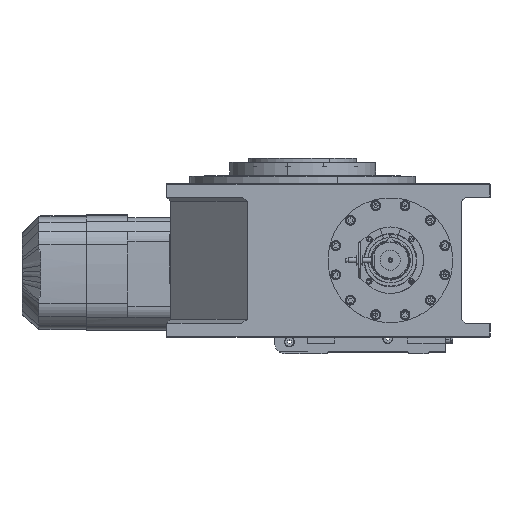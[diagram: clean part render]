
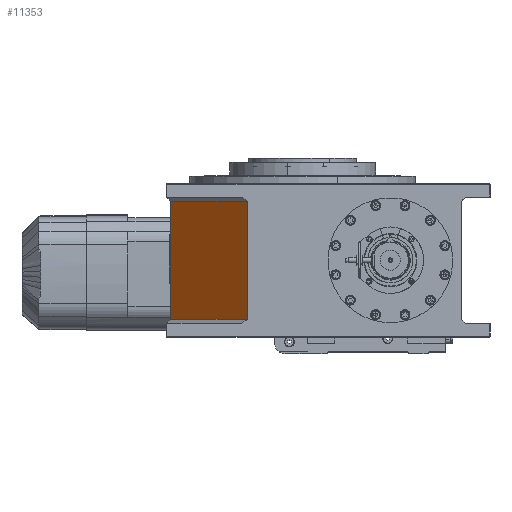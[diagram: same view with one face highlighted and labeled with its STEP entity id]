
A CAD part, top view. The second image highlights one B-rep face of the part: STEP entity #11353.
In plain terms, the highlighted planar face has unit normal (-0.707, 0, 0.707).
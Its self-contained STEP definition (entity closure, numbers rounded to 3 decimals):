
#668 = EDGE_LOOP ( 'NONE', ( #76084, #14489, #61725, #41311 ) ) ;
#1149 = LINE ( 'NONE', #9720, #94469 ) ;
#7023 = VECTOR ( 'NONE', #64247, 1000. ) ;
#9157 = LINE ( 'NONE', #38247, #7023 ) ;
#9308 = VERTEX_POINT ( 'NONE', #89737 ) ;
#9720 = CARTESIAN_POINT ( 'NONE',  ( -199., 204., 83.259 ) ) ;
#10438 = LINE ( 'NONE', #25717, #73463 ) ;
#10772 = VECTOR ( 'NONE', #27978, 1000. ) ;
#11353 = ADVANCED_FACE ( 'NONE', ( #41553 ), #71653, .F. ) ;
#14489 = ORIENTED_EDGE ( 'NONE', *, *, #32992, .T. ) ;
#14540 = LINE ( 'NONE', #94373, #10772 ) ;
#18717 = AXIS2_PLACEMENT_3D ( 'NONE', #86438, #94100, #28168 ) ;
#22784 = VERTEX_POINT ( 'NONE', #66321 ) ;
#25717 = CARTESIAN_POINT ( 'NONE',  ( -83.259, 26., 199. ) ) ;
#27978 = DIRECTION ( 'NONE',  ( 0., -1., 0. ) ) ;
#28168 = DIRECTION ( 'NONE',  ( -0.707, 0., -0.707 ) ) ;
#30622 = CARTESIAN_POINT ( 'NONE',  ( -199., 204., 83.259 ) ) ;
#32992 = EDGE_CURVE ( 'NONE', #9308, #42484, #1149, .T. ) ;
#38247 = CARTESIAN_POINT ( 'NONE',  ( -83.259, 210., 199. ) ) ;
#41311 = ORIENTED_EDGE ( 'NONE', *, *, #45224, .T. ) ;
#41553 = FACE_OUTER_BOUND ( 'NONE', #668, .T. ) ;
#42484 = VERTEX_POINT ( 'NONE', #30622 ) ;
#44390 = CARTESIAN_POINT ( 'NONE',  ( -199., 26., 83.259 ) ) ;
#45224 = EDGE_CURVE ( 'NONE', #69255, #22784, #10438, .T. ) ;
#45803 = DIRECTION ( 'NONE',  ( 0.707, 0., 0.707 ) ) ;
#51837 = EDGE_CURVE ( 'NONE', #42484, #69255, #14540, .T. ) ;
#61725 = ORIENTED_EDGE ( 'NONE', *, *, #51837, .T. ) ;
#64247 = DIRECTION ( 'NONE',  ( 0., -1., 0. ) ) ;
#66321 = CARTESIAN_POINT ( 'NONE',  ( -83.259, 26., 199. ) ) ;
#67503 = DIRECTION ( 'NONE',  ( -0.707, 0., -0.707 ) ) ;
#69255 = VERTEX_POINT ( 'NONE', #44390 ) ;
#71653 = PLANE ( 'NONE',  #18717 ) ;
#73463 = VECTOR ( 'NONE', #45803, 1000. ) ;
#76084 = ORIENTED_EDGE ( 'NONE', *, *, #85940, .F. ) ;
#85940 = EDGE_CURVE ( 'NONE', #9308, #22784, #9157, .T. ) ;
#86438 = CARTESIAN_POINT ( 'NONE',  ( -83.259, 210., 199. ) ) ;
#89737 = CARTESIAN_POINT ( 'NONE',  ( -83.259, 204., 199. ) ) ;
#94100 = DIRECTION ( 'NONE',  ( 0.707, 0., -0.707 ) ) ;
#94373 = CARTESIAN_POINT ( 'NONE',  ( -199., 210., 83.259 ) ) ;
#94469 = VECTOR ( 'NONE', #67503, 1000. ) ;
